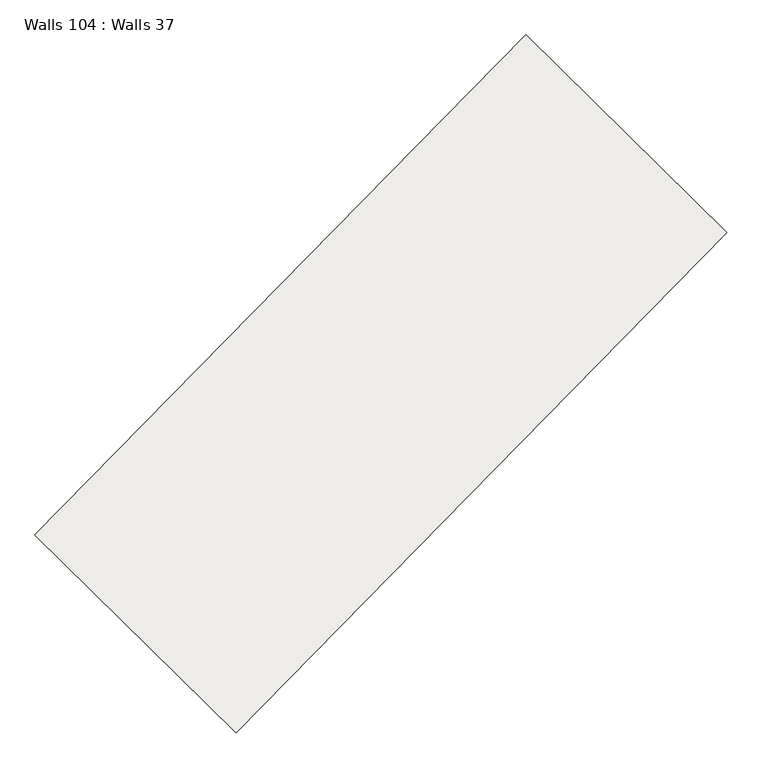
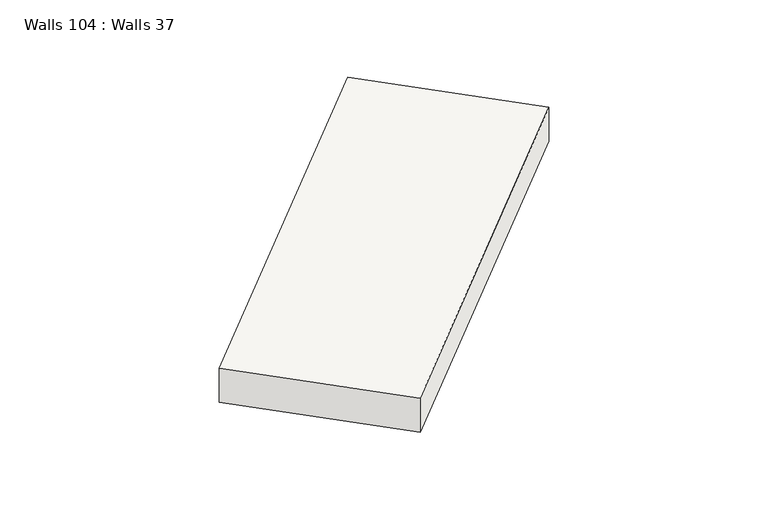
"""IFC4 building model written with IfcOpenShell, lengths in millimetres: slab geometry, Walls 104 : Walls 37."""

from ifc_helpers import new_model, si_unit, frame, origin, place, context, project, spatial, polyline, outline, extrude, source, transform, mapped, element, save


def walls_104_walls_37_3d34db4d(model_context):
    return source(origin(), model_context, "Body", "SweptSolid", [
        extrude(outline(polyline([(-350.0, 0.0), (350.0, 0.0), (260.0, -8699.9999996), (-440.0, -8699.9999996), (-350.0, 0.0)])), frame((-158455.2951385, -320671.293237, 636140.0), z_axis=(-0.7137361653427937, 0.700414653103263, 0.0), x_axis=(0.0, 0.0, 1.0)), (0.0, 0.0, 1.0), 3499.999995),
    ])


if __name__ == "__main__":
    model = new_model("IFC4")
    model_context = context("Model", 3, world=origin())
    ifc_project = project(units=[si_unit("LENGTHUNIT", "METRE", prefix="MILLI")], contexts=[model_context])
    site = spatial("IfcSite", under=ifc_project)
    building = spatial("IfcBuilding", under=site)
    placement = place(None, origin())
    walls_104_walls_37_shape = walls_104_walls_37_3d34db4d(model_context)
    element("IfcSlab", 1, ObjectType="Walls 104 : Walls 37", at=placement, inside=building, context=model_context, shape_type="MappedRepresentation", body=[
        mapped(walls_104_walls_37_shape, transform((0.0, 0.0, 0.0), x_axis=(1.0, 0.0, 0.0), y_axis=(0.0, 1.0, 0.0), z_axis=(0.0, 0.0, 1.0))),
    ])
    save(model, "model.ifc")
